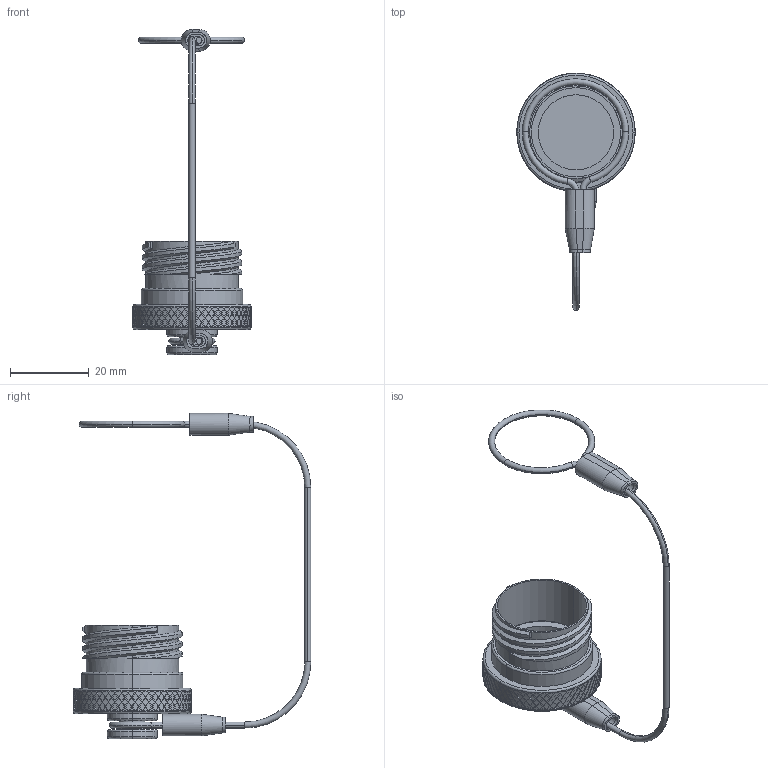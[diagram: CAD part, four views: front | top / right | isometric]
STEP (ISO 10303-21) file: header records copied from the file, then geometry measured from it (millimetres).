
FILE_DESCRIPTION (( 'STEP AP214' ), '1' );
FILE_NAME ('Q38DC-PGX-15-R2.STEP', '2026-04-22T18:18:53', ( '' ), ( '' ), 'SwSTEP 2.0', 'SolidWorks 2024', '' );
FILE_SCHEMA (( 'AUTOMOTIVE_DESIGN' ));
Length unit declared in the file: inch
Products named in the file (7): HEAT SHRINK_HS-250X625; LN-06-07-XX-Q38eb_Plug; Lanyard Assembly Q38_PLUG; SW-003; Q38-XX28-X_Q38-1528; Q38DC-PGX-15-R2; Q38-XX29-P_15P
Assembly tree (8 placements, depth 3):
  Q38DC-PGX-15-R2
    Q38-XX28-X_Q38-1528
    Lanyard Assembly Q38_PLUG
      LN-06-07-XX-Q38eb_Plug
      SW-003  x2
      HEAT SHRINK_HS-250X625  x2
    Q38-XX29-P_15P
Bounding box: 29.95 x 60.19 x 82.38 mm (x, y, z)
Volume: 6743.9 mm3; surface area: 8720.3 mm2
Topology: 7 solids, 7 shells, 1526 faces, 3665 edges, 2421 vertices
Faces by surface type: plane 1132, cylinder 343, torus 34, bspline 17
Entity records: 44718 total; most frequent: CARTESIAN_POINT 15195, ORIENTED_EDGE 7182, DIRECTION 4953, EDGE_CURVE 3591, VERTEX_POINT 2377, AXIS2_PLACEMENT_3D 1880, EDGE_LOOP 1766, ADVANCED_FACE 1492
